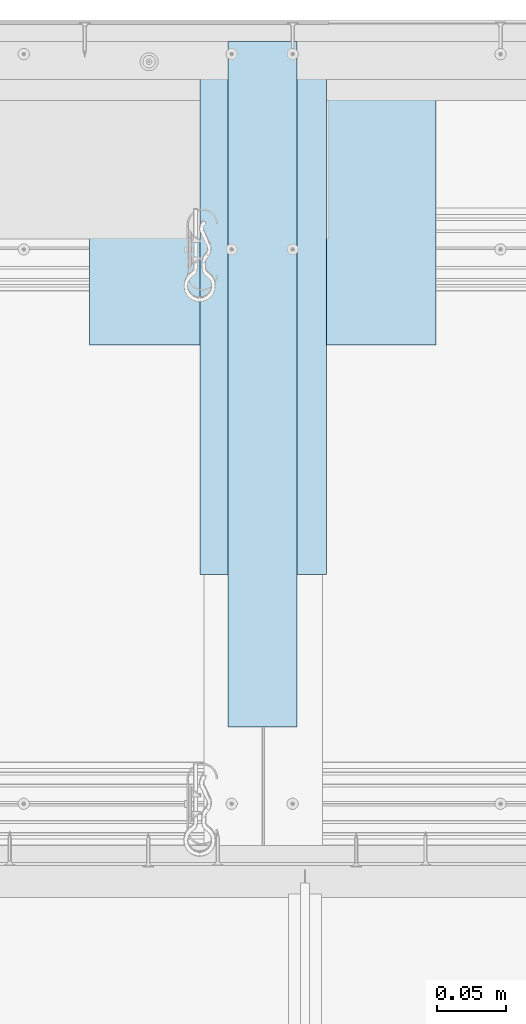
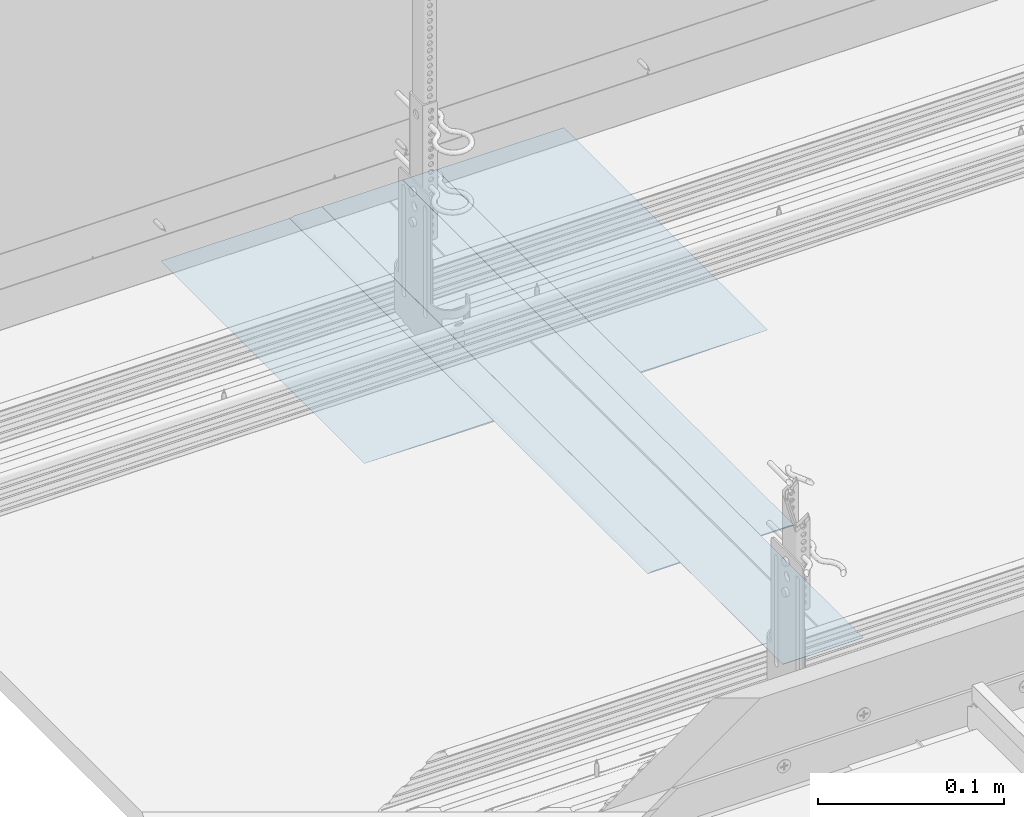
# One storey, part 8 of 79: 3 slabs.
"""IFC2X3 building model written with IfcOpenShell, lengths in millimetres."""

import ifcopenshell
import ifcopenshell.guid

model = None  # the IFC model being written
_history = None  # IfcOwnerHistory: only IFC2X3 demands one
_inside = {}  # id of a spatial element -> (the spatial element, [elements in it])
_under = {}  # id of a project, library or spatial element -> (it, [spatial elements below it])
_declared = {}  # id of a project -> (the project, [libraries it declares])
_typed = {}  # id of a type object -> (the type object, [elements of that type])
_made_of = {}  # id of a material, layer set ... -> (it, [elements and type objects made of it])


def new_model(schema):
    """Start an empty IFC model of exactly this schema.

    Asked for "IFC4X3", IfcOpenShell would pick the latest addendum, in which some entities
    have other attributes; the version numbers below select the first issue.
    IFC2X3 requires an IfcOwnerHistory on every rooted entity: one is made here for all.
    """
    global model, _history
    if schema == "IFC4X3":
        model = ifcopenshell.file(schema_version=(4, 3, 0, 0))
    else:
        model = ifcopenshell.file(schema=schema)
    _inside.clear()
    _under.clear()
    _declared.clear()
    _typed.clear()
    _made_of.clear()
    _history = None
    if model.schema == "IFC2X3":
        org = make("IfcOrganization", Name="unknown")
        user = make(
            "IfcPersonAndOrganization",
            ThePerson=make("IfcPerson", FamilyName="unknown"),
            TheOrganization=org,
        )
        app = make(
            "IfcApplication",
            ApplicationDeveloper=org,
            Version="unknown",
            ApplicationFullName="unknown",
            ApplicationIdentifier="unknown",
        )
        _history = make(
            "IfcOwnerHistory",
            OwningUser=user,
            OwningApplication=app,
            ChangeAction="ADDED",
            CreationDate=0,
        )
    return model


def make(cls, **values):
    """One entity of the class cls with the attributes given. An attribute that is None is left unset."""
    return model.create_entity(
        cls, **{name: value for name, value in values.items() if value is not None}
    )


def entity(cls, *values):
    """Any entity or typed value of the class cls, its attributes in the order of the schema. None: left unset."""
    e = model.create_entity(cls)
    for i, value in enumerate(values):
        if value is not None:
            e[i] = value
    return e


def rooted(cls, **values):
    """An entity with a GlobalId (a new one), such as an element, a storey or a relation."""
    return make(cls, GlobalId=ifcopenshell.guid.new(), OwnerHistory=_history, **values)


def si_unit(unit_type, name, prefix=None):
    """IfcSIUnit, for example si_unit("LENGTHUNIT", "METRE", prefix="MILLI")."""
    return make("IfcSIUnit", UnitType=unit_type, Prefix=prefix, Name=name)


def converted_unit(unit_type, name, factor, base, dimensions=None, offset=None):
    """IfcConversionBasedUnit, such as the inch: factor (a typed value) times the base unit."""
    return make(
        "IfcConversionBasedUnit"
        if offset is None
        else "IfcConversionBasedUnitWithOffset",
        ConversionOffset=offset,
        Dimensions=None
        if dimensions is None
        else entity("IfcDimensionalExponents", *dimensions),
        UnitType=unit_type,
        Name=name,
        ConversionFactor=make(
            "IfcMeasureWithUnit", ValueComponent=factor, UnitComponent=base
        ),
    )


def assignment(units):
    """IfcUnitAssignment: the units of a project."""
    return None if units is None else make("IfcUnitAssignment", Units=units)


def point(xyz):
    """IfcCartesianPoint."""
    return None if xyz is None else make("IfcCartesianPoint", Coordinates=xyz)


def direction(xyz):
    """IfcDirection."""
    return None if xyz is None else make("IfcDirection", DirectionRatios=xyz)


def frame(location, z_axis=None, x_axis=None):
    """IfcAxis2Placement3D, a coordinate frame: its origin and axes. An axis left out is left unset."""
    return make(
        "IfcAxis2Placement3D",
        Location=point(location),
        Axis=direction(z_axis),
        RefDirection=direction(x_axis),
    )


def origin():
    """The frame at (0, 0, 0) with its axes left unset."""
    return frame((0.0, 0.0, 0.0))


def origin_with_axes():
    """The frame at (0, 0, 0) with the z axis (0, 0, 1) and the x axis (1, 0, 0) written out."""
    return frame((0.0, 0.0, 0.0), z_axis=(0.0, 0.0, 1.0), x_axis=(1.0, 0.0, 0.0))


def place(relative_to, where):
    """IfcLocalPlacement: puts the frame where relative to a parent placement (None: the world)."""
    return make(
        "IfcLocalPlacement", PlacementRelTo=relative_to, RelativePlacement=where
    )


def context(
    kind, dimensions, precision=None, world=None, true_north=None, identifier=None
):
    """IfcGeometricRepresentationContext, for example the 3D "Model" context."""
    return make(
        "IfcGeometricRepresentationContext",
        ContextIdentifier=identifier,
        ContextType=kind,
        CoordinateSpaceDimension=dimensions,
        Precision=precision,
        WorldCoordinateSystem=world,
        TrueNorth=true_north,
    )


def project(units=None, contexts=None):
    """IfcProject with its units and contexts."""
    return rooted(
        "IfcProject",
        Name="project",
        RepresentationContexts=contexts,
        UnitsInContext=assignment(units),
    )


def spatial(cls, under=None, at=None, **own):
    """A site, building, storey or space (cls), placed at a placement, below another one or the project."""
    s = rooted(cls, ObjectPlacement=at, **own)
    if under is not None:
        _under.setdefault(under.id(), (under, []))[1].append(s)
    return s


def faces_of(points, faces, orient=None, outer=None):
    """IfcFace entities. A face is a list of loops; a loop is a list of indices into points, from 0.

    orient and outer hold one flag for each loop. By default every Orientation is true, the
    first loop of a face is its IfcFaceOuterBound and the others are IfcFaceBound.
    """
    made = []
    for i, loops in enumerate(faces):
        bounds = []
        for j, loop in enumerate(loops):
            is_outer = j == 0 if outer is None else outer[i][j]
            bounds.append(
                make(
                    "IfcFaceOuterBound" if is_outer else "IfcFaceBound",
                    Bound=make("IfcPolyLoop", Polygon=[points[k] for k in loop]),
                    Orientation=True if orient is None else orient[i][j],
                )
            )
        made.append(make("IfcFace", Bounds=bounds))
    return made


def faceted_brep(points, faces, orient=None, outer=None, voids=None):
    """IfcFacetedBrep: a solid bounded by flat faces; with voids (closed shells), ...WithVoids."""
    shared = [point(p) for p in points]
    hull = make("IfcClosedShell", CfsFaces=faces_of(shared, faces, orient, outer))
    if voids is None:
        return make("IfcFacetedBrep", Outer=hull)
    return make(
        "IfcFacetedBrepWithVoids",
        Outer=hull,
        Voids=[
            make(cls, CfsFaces=faces_of(shared, fs, o, b)) for cls, fs, o, b in voids
        ],
    )


def shape(context_of_items, identifier, shape_type, items):
    """IfcShapeRepresentation: the items that make up one representation, for example the "Body"."""
    return make(
        "IfcShapeRepresentation",
        ContextOfItems=context_of_items,
        RepresentationIdentifier=identifier,
        RepresentationType=shape_type,
        Items=items,
    )


def made_of(thing, what):
    """Note that an element or type object is made of a material, layer set ...; save() writes the relation."""
    if what is not None:
        _made_of.setdefault(what.id(), (what, []))[1].append(thing)
    return thing


def element(
    cls,
    number,
    at=None,
    inside=None,
    cuts=None,
    type_object=None,
    material=None,
    context=None,
    identifier="Body",
    shape_type=None,
    held_by="IfcProductDefinitionShape",
    body=None,
    shapes=None,
    **own,
):
    """One element of the class cls, such as IfcWall. Its Tag is "e" and its number.

    at: its placement. inside: the storey or other place that contains it. cuts: it is an
    opening in that element (IfcRelVoidsElement). A single representation is given by context,
    identifier, shape_type and body (its items); several are given by shapes. held_by: the class
    of the entity that holds the representations. save() writes the other relations.
    """
    e = rooted(cls, Tag="e%d" % number, ObjectPlacement=at, **own)
    if body is not None:
        shapes = [shape(context, identifier, shape_type, body)]
    if shapes is not None:
        e.Representation = make(held_by, Representations=shapes)
    if inside is not None:
        _inside.setdefault(inside.id(), (inside, []))[1].append(e)
    if cuts is not None:
        rooted(
            "IfcRelVoidsElement", RelatingBuildingElement=cuts, RelatedOpeningElement=e
        )
    if type_object is not None:
        _typed.setdefault(type_object.id(), (type_object, []))[1].append(e)
    return made_of(e, material)


def aggregate(whole, parts):
    """IfcRelAggregates: a whole, such as a stair, and the parts it consists of."""
    return rooted("IfcRelAggregates", RelatingObject=whole, RelatedObjects=parts)


def save(model, path):
    """Write the relations noted so far, then the file.

    IfcRelAggregates (storeys below a building ...), IfcRelContainedInSpatialStructure (elements
    in a storey), IfcRelDefinesByType, IfcRelAssociatesMaterial and IfcRelDeclares: one each for
    every whole, place, type object, material and project.
    """
    for whole, parts in _under.values():
        aggregate(whole, parts)
    for where, things in _inside.values():
        rooted(
            "IfcRelContainedInSpatialStructure",
            RelatedElements=things,
            RelatingStructure=where,
        )
    for kind, things in _typed.values():
        rooted("IfcRelDefinesByType", RelatedObjects=things, RelatingType=kind)
    for what, things in _made_of.values():
        rooted("IfcRelAssociatesMaterial", RelatedObjects=things, RelatingMaterial=what)
    for by, libraries in _declared.values():
        rooted("IfcRelDeclares", RelatingContext=by, RelatedDefinitions=libraries)
    model.write(path)


model = new_model("IFC2X3")

# Units and contexts
model_context = context("Model", 3, precision=1e-05, world=origin(), true_north=direction((0.0, 1.0, 0.0)))
ifc_project = project(units=[si_unit("LENGTHUNIT", "METRE", prefix="MILLI"), si_unit("AREAUNIT", "SQUARE_METRE"), si_unit("VOLUMEUNIT", "CUBIC_METRE"), converted_unit("PLANEANGLEUNIT", "DEGREE", entity("IfcPlaneAngleMeasure", 0.01745), si_unit("PLANEANGLEUNIT", "RADIAN"), dimensions=[0, 0, 0, 0, 0, 0, 0]), si_unit("SOLIDANGLEUNIT", "STERADIAN"), si_unit("MASSUNIT", "GRAM"), si_unit("TIMEUNIT", "SECOND"), si_unit("THERMODYNAMICTEMPERATUREUNIT", "DEGREE_CELSIUS"), si_unit("LUMINOUSINTENSITYUNIT", "LUMEN")], contexts=[model_context])

# Site, building, storey
site_placement = place(None, origin_with_axes())
site = spatial("IfcSite", under=ifc_project, at=site_placement, Name="Default Site", CompositionType="ELEMENT")
building_placement = place(site_placement, origin_with_axes())
building = spatial("IfcBuilding", under=site, at=building_placement, Name="Default Building", CompositionType="ELEMENT")
storey_placement = place(building_placement, origin_with_axes())
storey = spatial("IfcBuildingStorey", under=building, at=storey_placement, Name="Default Building Storey", CompositionType="ELEMENT", Elevation=0.0)

# Slabs
slab_1_placement = place(storey_placement, frame((3262.89856338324, 2224.620167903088, 4371.841939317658), z_axis=(0.0, -1.0, 3.018319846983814e-16), x_axis=(1.0, 0.0, 0.0)))
element("IfcSlab", 1, at=slab_1_placement, inside=storey, Name="Dedykowana masa szpachlowa Rigips - wykończeniowa", context=model_context, shape_type="Brep", body=[
    faceted_brep([(-612.459216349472, -3390.556721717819, 2.703533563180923), (-862.459216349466, -3390.556721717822, 2.703533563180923), (-812.4612643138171, -3391.196716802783, 2.703533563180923), (-762.4602403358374, -3391.516720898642, 2.703533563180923), (-712.458192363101, -3391.51672089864, 2.703533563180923), (-662.4571683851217, -3391.19671680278, 2.703533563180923), (-762.4602403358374, -3391.516720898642, 221.5796813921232), (-812.4612643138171, -3391.196716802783, 221.5796813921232), (-862.459216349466, -3390.556721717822, 221.5796813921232), (-612.459216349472, -3390.556721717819, 221.5796813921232), (-662.4571683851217, -3391.19671680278, 221.5796813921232), (-712.458192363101, -3391.516720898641, 221.5796813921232)], [[[0, 1, 2, 3, 4, 5]], [[6, 7, 8, 9, 10, 11]], [[9, 0, 5, 10]], [[10, 5, 4, 11]], [[11, 4, 3, 6]], [[6, 3, 2, 7]], [[1, 8, 7, 2]], [[0, 9, 8, 1]]]),
])
slab_2_placement = place(storey_placement, frame((3262.898563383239, 2224.620167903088, 4371.641939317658), z_axis=(2.046201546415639e-47, -1.0, 3.018319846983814e-16), x_axis=(1.0, 2.49161455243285e-47, -7.520489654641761e-63)))
element("IfcSlab", 2, at=slab_2_placement, inside=storey, Name="Taśma spoinowa RIGIPS", context=model_context, shape_type="Brep", body=[
    faceted_brep([(-712.4592163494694, -3389.656721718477, 497.4507986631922), (-712.4592163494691, -3389.856721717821, 497.4507986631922), (-762.4592163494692, -3389.856721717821, 497.4507986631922), (-762.4592163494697, -3389.656721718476, 497.4507986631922), (-712.4592163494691, -3389.856721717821, 2.703533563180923), (-712.4592163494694, -3389.656721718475, 2.703533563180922), (-762.4592163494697, -3389.656721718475, 2.703533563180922), (-762.4592163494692, -3389.856721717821, 2.703533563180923)], [[[0, 1, 2, 3]], [[4, 5, 6, 7]], [[5, 0, 3, 6]], [[6, 3, 2, 7]], [[7, 2, 1, 4]], [[4, 1, 0, 5]]]),
])
slab_3_placement = place(storey_placement, frame((2480.439347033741, 1837.517816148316, 981.2852175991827), z_axis=(0.0, 0.0, 1.0), x_axis=(1.0, 0.0, 0.0)))
element("IfcSlab", 3, at=slab_3_placement, inside=storey, Name="Dedykowana masa szpachlowa Rigips - konstrukcyjna", context=model_context, shape_type="Brep", body=[
    faceted_brep([(90.99999999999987, 0.0, 0.0), (90.99999999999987, 384.3988181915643, 0.0), (88.19999999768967, 384.3988181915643, 0.6999999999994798), (88.19999999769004, 0.0, 0.6999999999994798), (20.00000000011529, 3.983090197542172e-13, 0.2999999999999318), (20.00000000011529, 384.3988181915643, 0.2999999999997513), (20.00000000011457, 384.3988181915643, 0.6999999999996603), (20.00000000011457, 5.974635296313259e-13, 0.6999999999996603), (70.00000000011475, 1.991545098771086e-13, 0.3000000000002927), (70.00000000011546, 384.3988181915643, 0.2999999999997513), (70.00000000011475, 1.39408156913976e-12, 0.6999999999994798), (70.00000000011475, 384.3988181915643, 0.6999999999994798), (0.0, 0.0, 0.0), (0.0, 384.3988181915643, 0.0), (2.799999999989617, 384.3988181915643, 0.6999999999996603), (2.800000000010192, 5.974635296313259e-13, 0.6999999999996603)], [[[0, 1, 2, 3]], [[4, 5, 6, 7]], [[8, 9, 5, 4]], [[8, 10, 11, 9]], [[2, 11, 10, 3]], [[0, 12, 13, 1]], [[14, 6, 5, 9, 11, 2, 1, 13]], [[12, 15, 14, 13]], [[15, 7, 6, 14]], [[3, 10, 8, 4, 7, 15, 12, 0]]]),
])

save(model, "model.ifc")
